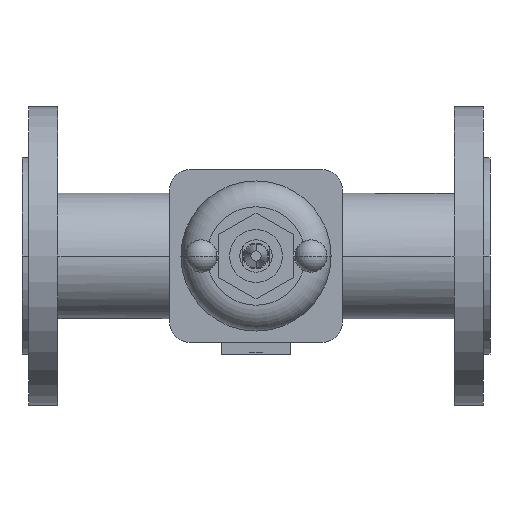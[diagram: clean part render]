
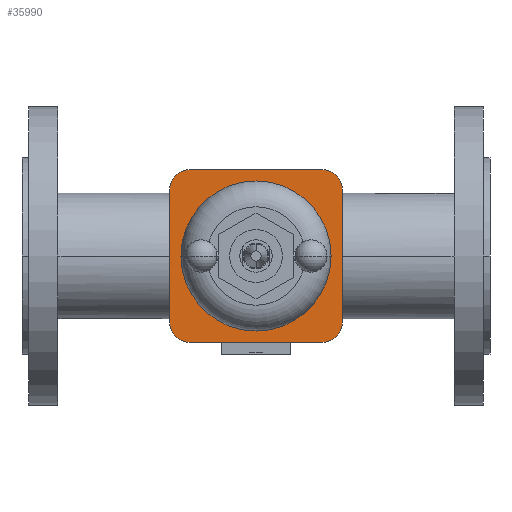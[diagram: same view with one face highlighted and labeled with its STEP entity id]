
A CAD part, front view. The second image highlights one B-rep face of the part: STEP entity #35990.
In plain terms, the highlighted planar face has unit normal (0, -1, 0).
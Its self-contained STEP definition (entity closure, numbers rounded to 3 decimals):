
#8470=CARTESIAN_POINT('',(98.5,-111.15,0.));
#8480=VERTEX_POINT('',#8470);
#8570=CARTESIAN_POINT('',(191.5,-111.15,0.));
#8580=VERTEX_POINT('',#8570);
#8610=CARTESIAN_POINT('',(145.,-111.15,0.));
#8620=DIRECTION('',(0.,-1.,0.));
#8630=DIRECTION('',(-1.,0.,0.));
#8640=AXIS2_PLACEMENT_3D('',#8610,#8620,#8630);
#8650=CIRCLE('',#8640,46.5);
#8660=EDGE_CURVE('',#8480,#8580,#8650,.T.);
#33870=CARTESIAN_POINT('',(185.659,-111.15,53.659));
#33880=VERTEX_POINT('',#33870);
#33910=CARTESIAN_POINT('',(95.171,-111.15,53.659));
#33920=DIRECTION('',(-1.,0.,0.));
#33930=VECTOR('',#33920,1.);
#33940=LINE('',#33910,#33930);
#33950=CARTESIAN_POINT('',(104.341,-111.15,53.659));
#33960=VERTEX_POINT('',#33950);
#33970=EDGE_CURVE('',#33880,#33960,#33940,.T.);
#35280=CARTESIAN_POINT('',(86.,-111.15,0.));
#35290=DIRECTION('',(0.,-1.,0.));
#35300=DIRECTION('',(-1.,0.,0.));
#35310=AXIS2_PLACEMENT_3D('',#35280,#35290,#35300);
#35320=PLANE('',#35310);
#35330=CARTESIAN_POINT('',(104.341,-111.15,40.659));
#35340=DIRECTION('',(0.,-1.,0.));
#35350=DIRECTION('',(-1.,0.,0.));
#35360=AXIS2_PLACEMENT_3D('',#35330,#35340,#35350);
#35370=CIRCLE('',#35360,13.);
#35380=CARTESIAN_POINT('',(91.341,-111.15,40.659));
#35390=VERTEX_POINT('',#35380);
#35400=EDGE_CURVE('',#33960,#35390,#35370,.T.);
#35410=ORIENTED_EDGE('',*,*,#35400,.T.);
#35420=ORIENTED_EDGE('',*,*,#33970,.T.);
#35430=CARTESIAN_POINT('',(185.659,-111.15,40.659));
#35440=DIRECTION('',(0.,-1.,0.));
#35450=DIRECTION('',(0.,0.,1.));
#35460=AXIS2_PLACEMENT_3D('',#35430,#35440,#35450);
#35470=CIRCLE('',#35460,13.);
#35480=CARTESIAN_POINT('',(198.659,-111.15,40.659));
#35490=VERTEX_POINT('',#35480);
#35500=EDGE_CURVE('',#35490,#33880,#35470,.T.);
#35510=ORIENTED_EDGE('',*,*,#35500,.T.);
#35520=CARTESIAN_POINT('',(198.659,-111.15,20.329));
#35530=DIRECTION('',(0.,0.,1.));
#35540=VECTOR('',#35530,1.);
#35550=LINE('',#35520,#35540);
#35560=CARTESIAN_POINT('',(198.659,-111.15,-40.659));
#35570=VERTEX_POINT('',#35560);
#35580=EDGE_CURVE('',#35570,#35490,#35550,.T.);
#35590=ORIENTED_EDGE('',*,*,#35580,.T.);
#35600=CARTESIAN_POINT('',(185.659,-111.15,-40.659));
#35610=DIRECTION('',(0.,-1.,0.));
#35620=DIRECTION('',(1.,0.,0.));
#35630=AXIS2_PLACEMENT_3D('',#35600,#35610,#35620);
#35640=CIRCLE('',#35630,13.);
#35650=CARTESIAN_POINT('',(185.659,-111.15,-53.659));
#35660=VERTEX_POINT('',#35650);
#35670=EDGE_CURVE('',#35660,#35570,#35640,.T.);
#35680=ORIENTED_EDGE('',*,*,#35670,.T.);
#35690=CARTESIAN_POINT('',(135.829,-111.15,-53.659));
#35700=DIRECTION('',(1.,0.,0.));
#35710=VECTOR('',#35700,1.);
#35720=LINE('',#35690,#35710);
#35730=CARTESIAN_POINT('',(104.341,-111.15,-53.659));
#35740=VERTEX_POINT('',#35730);
#35750=EDGE_CURVE('',#35740,#35660,#35720,.T.);
#35760=ORIENTED_EDGE('',*,*,#35750,.T.);
#35770=CARTESIAN_POINT('',(104.341,-111.15,-40.659));
#35780=DIRECTION('',(0.,-1.,0.));
#35790=DIRECTION('',(0.,0.,-1.));
#35800=AXIS2_PLACEMENT_3D('',#35770,#35780,#35790);
#35810=CIRCLE('',#35800,13.);
#35820=CARTESIAN_POINT('',(91.341,-111.15,-40.659));
#35830=VERTEX_POINT('',#35820);
#35840=EDGE_CURVE('',#35830,#35740,#35810,.T.);
#35850=ORIENTED_EDGE('',*,*,#35840,.T.);
#35860=CARTESIAN_POINT('',(91.341,-111.15,-20.329));
#35870=DIRECTION('',(0.,0.,-1.));
#35880=VECTOR('',#35870,1.);
#35890=LINE('',#35860,#35880);
#35900=EDGE_CURVE('',#35390,#35830,#35890,.T.);
#35910=ORIENTED_EDGE('',*,*,#35900,.T.);
#35920=EDGE_LOOP('',(#35910,#35850,#35760,#35680,#35590,#35510,#35420,
#35410));
#35930=FACE_OUTER_BOUND('',#35920,.T.);
#35940=EDGE_CURVE('',#8580,#8480,#8650,.T.);
#35950=ORIENTED_EDGE('',*,*,#35940,.F.);
#35960=ORIENTED_EDGE('',*,*,#8660,.F.);
#35970=EDGE_LOOP('',(#35960,#35950));
#35980=FACE_BOUND('',#35970,.T.);
#35990=ADVANCED_FACE('',(#35930,#35980),#35320,.T.);
